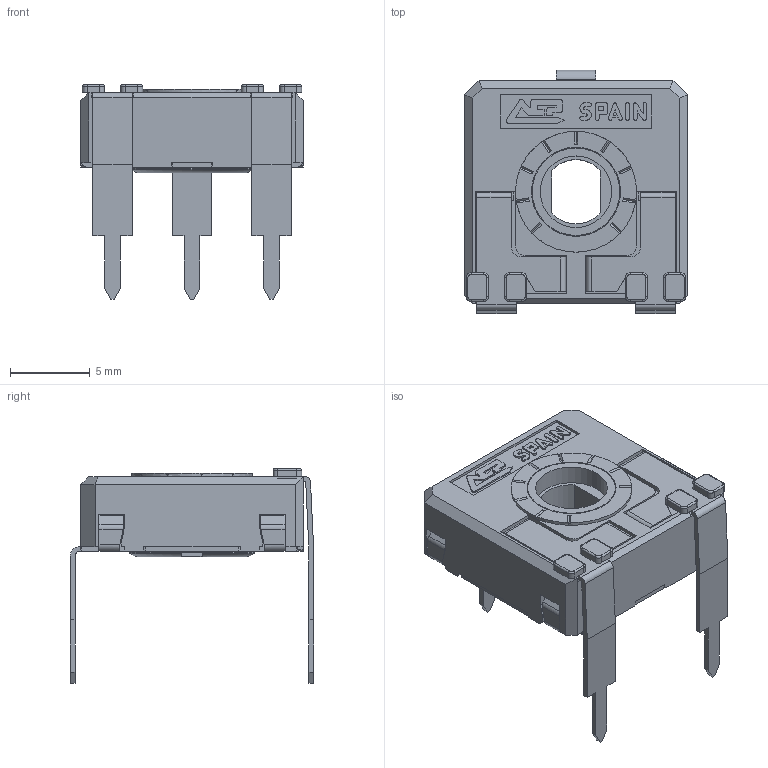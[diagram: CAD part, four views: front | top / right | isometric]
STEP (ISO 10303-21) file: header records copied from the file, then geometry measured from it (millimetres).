
FILE_DESCRIPTION(/* description */ (''),/* implementation_level */ '2;1');
FILE_NAME(/* name */ 'C:\Users\CEM\Desktop\ENVIAR\TRANSICION 3D CATALOGOS\RS14ZVJ15.stp',/* time_stamp */ '2025-12-10T11:33:14+01:00',/* author */ ('CEM'),/* organization */ (''),/* preprocessor_version */ 'ST-DEVELOPER v16.13',/* originating_system */ 'Autodesk Inventor 2018',/* authorisation */ '');
FILE_SCHEMA (('AUTOMOTIVE_DESIGN { 1 0 10303 214 3 1 1 }'));
Length unit declared in the file: millimetre
Products named in the file (1): CARCASA CA14 PGA
Bounding box: 14 x 15.3 x 13.5 mm (x, y, z)
Volume: 532 mm3; surface area: 1512.1 mm2
Topology: 1 solids, 1 shells, 673 faces, 1893 edges, 1217 vertices
Faces by surface type: plane 497, cylinder 139, torus 23, bspline 8, cone 6
Full cylindrical faces by diameter (mm): 4.5 x1, 5.5 x1, 5.6 x1, 5.752 x1, 6.8 x1, 7.6 x1
Entity records: 21771 total; most frequent: CARTESIAN_POINT 3976, ORIENTED_EDGE 3756, DIRECTION 3544, EDGE_CURVE 1878, LINE 1488, VECTOR 1488, VERTEX_POINT 1212, AXIS2_PLACEMENT_3D 1028
